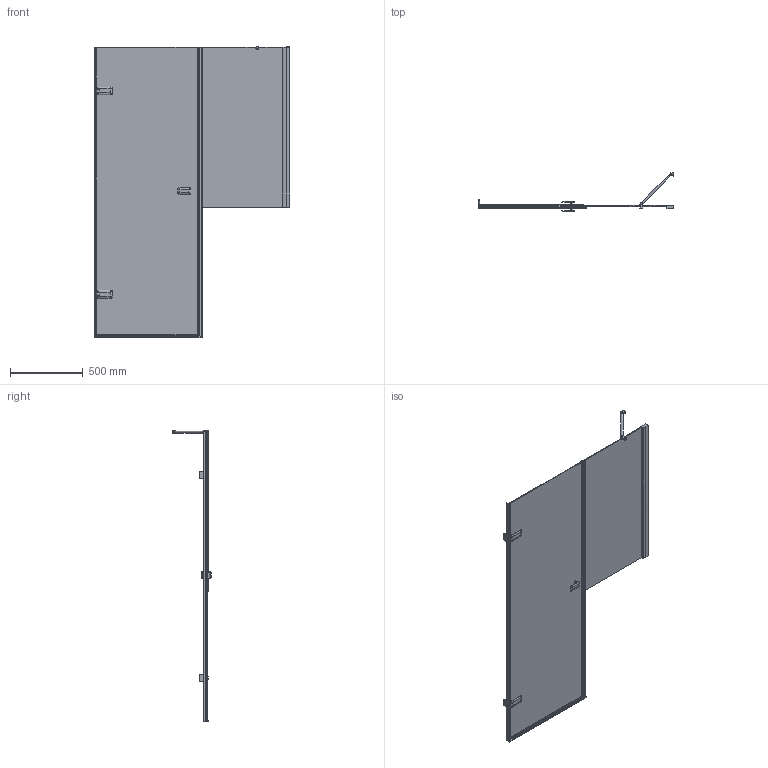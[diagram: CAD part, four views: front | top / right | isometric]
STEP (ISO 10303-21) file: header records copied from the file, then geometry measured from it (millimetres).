
FILE_DESCRIPTION(/* description */ (''),/* implementation_level */ '2;1');
FILE_NAME(/* name */ 'E:\Работа\Сергей\Душевые кабинки\! Работа\! 1\TREND DOOR GK-862BPLTWO\TREND DOOR GK-862BPLTWO левая модель\TREND DOOR GK-862BPLTWO ЛЕВАЯ-3D.stp',/* time_stamp */ '2017-08-23T21:31:15+03:00',/* author */ ('PC'),/* organization */ (''),/* preprocessor_version */ 'ST-DEVELOPER v15.2',/* originating_system */ 'Autodesk Inventor 2014',/* authorisation */ '');
FILE_SCHEMA (('AUTOMOTIVE_DESIGN { 1 0 10303 214 3 1 1 }'));
Length unit declared in the file: millimetre
Products named in the file (1): TREND DOOR GK-862BPLTWO ЛЕВАЯ-3
D
Bounding box: 1349.14 x 268.74 x 2009.49 mm (x, y, z)
Volume: 15911250.9 mm3; surface area: 4820825 mm2
Topology: 6 solids, 6 shells, 863 faces, 2383 edges, 1586 vertices
Faces by surface type: plane 553, cylinder 226, bspline 52, torus 26, sphere 6
Full cylindrical faces by diameter (mm): 4.5 x3, 12 x2, 15 x1, 20 x2, 26 x1
Entity records: 29738 total; most frequent: CARTESIAN_POINT 7213, ORIENTED_EDGE 4484, DIRECTION 4447, EDGE_CURVE 2241, LINE 1657, VECTOR 1657, AXIS2_PLACEMENT_3D 1395, VERTEX_POINT 1391
